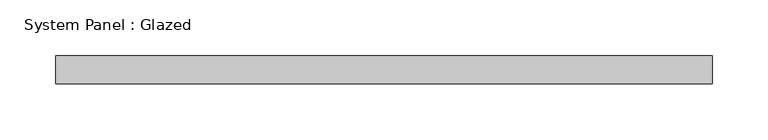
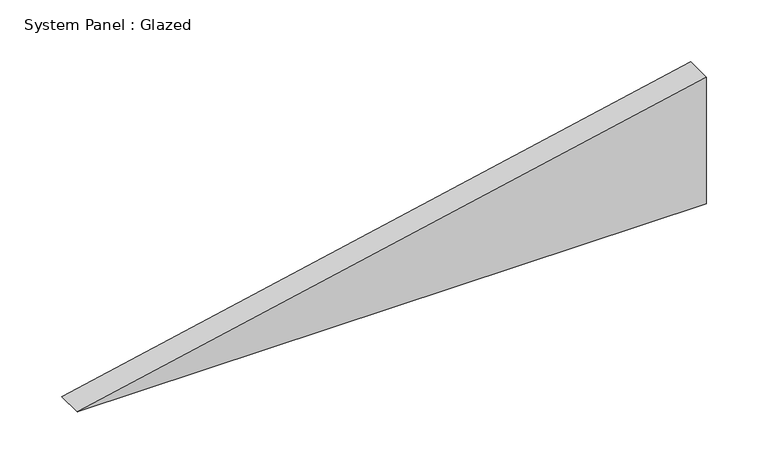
"""IFC4 building model written with IfcOpenShell, lengths in millimetres: plate geometry, System Panel : Glazed."""

from ifc_helpers import new_model, si_unit, frame, origin, place, context, project, spatial, polyline, outline, extrude, source, transform, mapped, element, save


def system_panel_glazed_09b1b49a(model_context):
    return source(origin(), model_context, "Body", "SweptSolid", [
        extrude(outline(polyline([(0.0, -293.1479562), (0.0, 293.1479562), (124.6210433, 293.1479562), (0.0, -293.1479562)])), frame((0.0, -49.5, 0.0), z_axis=(0.0, 1.0, 0.0), x_axis=(0.0, 0.0, 1.0)), (0.0, 0.0, 1.0), 25.0),
    ])


if __name__ == "__main__":
    model = new_model("IFC4")
    model_context = context("Model", 3, world=origin())
    ifc_project = project(units=[si_unit("LENGTHUNIT", "METRE", prefix="MILLI")], contexts=[model_context])
    site = spatial("IfcSite", under=ifc_project)
    building = spatial("IfcBuilding", under=site)
    placement = place(None, origin())
    system_panel_glazed_shape = system_panel_glazed_09b1b49a(model_context)
    element("IfcPlate", 1, ObjectType="System Panel : Glazed", at=placement, inside=building, context=model_context, shape_type="MappedRepresentation", body=[
        mapped(system_panel_glazed_shape, transform((0.0, 0.0, 0.0), x_axis=(1.0, 0.0, 0.0), y_axis=(0.0, 1.0, 0.0), z_axis=(0.0, 0.0, 1.0))),
    ])
    save(model, "model.ifc")
